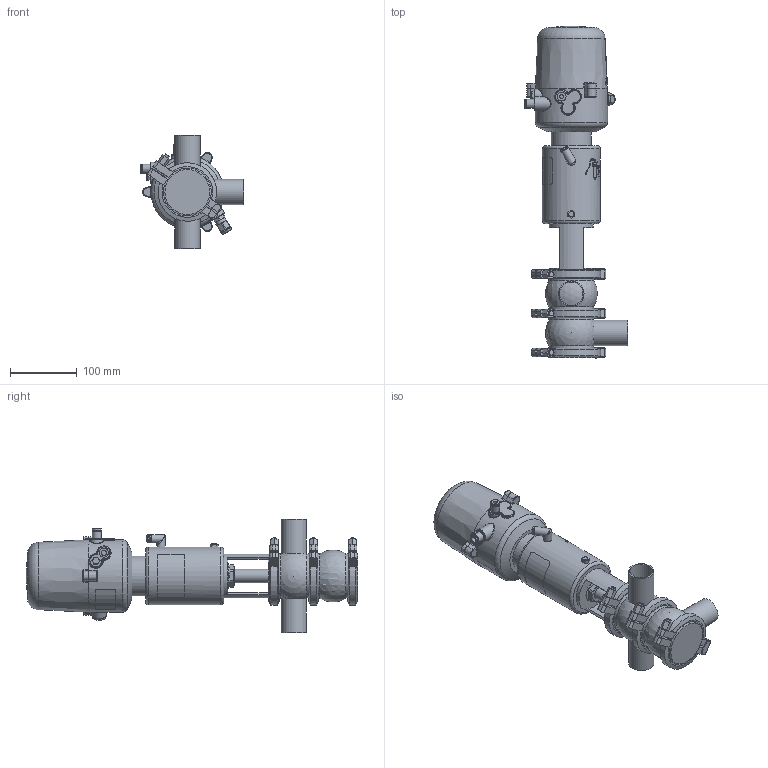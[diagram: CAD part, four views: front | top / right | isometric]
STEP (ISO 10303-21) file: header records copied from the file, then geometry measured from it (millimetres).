
FILE_DESCRIPTION (( 'STEP AP214' ), '1' );
FILE_NAME ('INNOVA M A W OD 1½ T1 AS NC & C-TOP S_10.241.16.0037.STEP', '2024-08-07T07:02:54', ( '' ), ( '' ), 'SwSTEP 2.0', 'SolidWorks 2023', '' );
FILE_SCHEMA (( 'AUTOMOTIVE_DESIGN' ));
Length unit declared in the file: millimetre
Products named in the file (9): 10.240.15.0007_OD 1½"; 10.240.15.0017_Estàndard; 10.240.15.0006_OD 1½"; 10.240.15.0001_DN 040; 10.240.15.0014_T1 AS P180; 10.426.15.0001_C-TOP S - 1 EV; 10.240.15.0010_DN 040; INNOVA M A W OD 1½ T1 AS NC & C-TOP S_10.241.16.0037; 10.241.15.0001_DIN 040
Assembly tree (10 placements, depth 2):
  INNOVA M A W OD 1½ T1 AS NC & C-TOP S_10.241.16.0037
    10.240.15.0007_OD 1½"
    10.240.15.0006_OD 1½"
    10.240.15.0010_DN 040
    10.240.15.0014_T1 AS P180
    10.240.15.0017_Estàndard
    10.426.15.0001_C-TOP S - 1 EV
    10.240.15.0001_DN 040  x3
    10.241.15.0001_DIN 040
Bounding box: 156 x 499.07 x 170 mm (x, y, z)
Volume: 2899285.1 mm3; surface area: 312155 mm2
Topology: 11 solids, 11 shells, 1238 faces, 3000 edges, 1993 vertices
Faces by surface type: plane 443, cylinder 379, cone 211, bspline 160, torus 36, sphere 9
Full cylindrical faces by diameter (mm): 0.371 x17, 0.512 x16, 0.658 x16, 0.795 x16, 0.94 x15, 1.098 x15, 1.241 x13, 1.382 x13, 1.523 x11, 1.669 x10, 2.201 x1, 4 x2, 5.5 x2, 6 x2, 6.15 x1, 8 x8, 8.5 x1, 10 x1, 10.5 x1, 11 x2, 12.5 x3, 13 x2, 13.5 x2, 16 x1, 17 x3, 20 x3, 20.5 x1, 22 x2, 31 x1, 34.5 x3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
Entity records: 57007 total; most frequent: CARTESIAN_POINT 26675, ORIENTED_EDGE 4516, DIRECTION 3673, EDGE_CURVE 2258, VERTEX_POINT 1609, EDGE_LOOP 1579, AXIS2_PLACEMENT_3D 1508, FACE_OUTER_BOUND 1339
